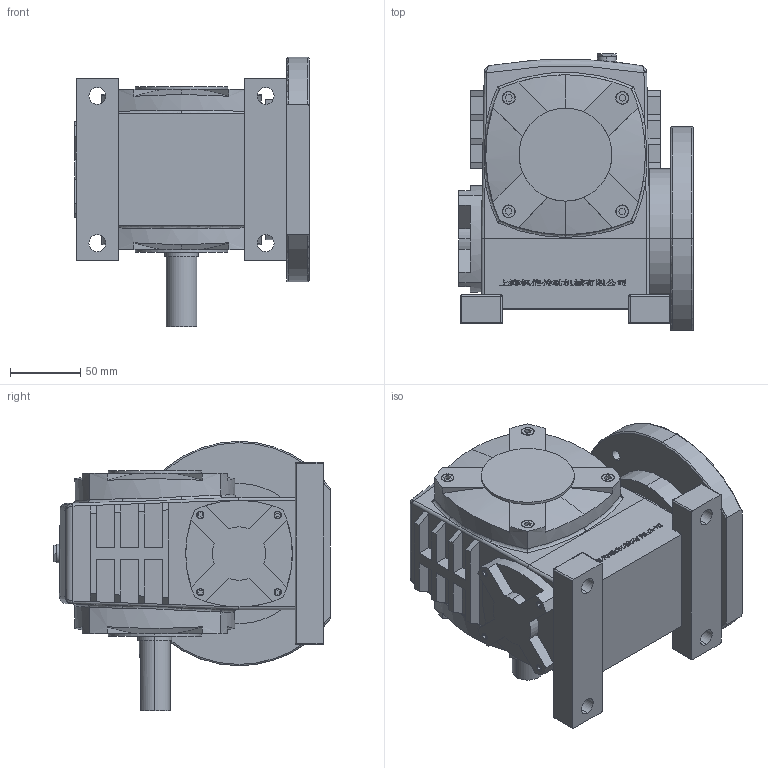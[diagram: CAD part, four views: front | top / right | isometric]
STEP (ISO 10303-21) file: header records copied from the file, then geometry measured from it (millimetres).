
FILE_DESCRIPTION (( 'STEP AP203' ), '1' );
FILE_NAME ('WPDA60.STEP', '2016-10-23T03:31:25', ( '' ), ( '' ), 'SwSTEP 2.0', 'SolidWorks 2014', '' );
FILE_SCHEMA (( 'CONFIG_CONTROL_DESIGN' ));
Products named in the file (1): WPDA60
Bounding box: 167 x 197 x 192 mm (x, y, z)
Volume: 2562136.4 mm3; surface area: 206296.2 mm2
Topology: 14 solids, 14 shells, 1153 faces, 3002 edges, 1941 vertices
Faces by surface type: plane 701, bspline 228, cylinder 155, cone 26, torus 23, sphere 20
Entity records: 43269 total; most frequent: CARTESIAN_POINT 16358, ORIENTED_EDGE 5980, DIRECTION 4762, EDGE_CURVE 2990, LINE 2054, VECTOR 2054, VERTEX_POINT 1941, AXIS2_PLACEMENT_3D 1354
